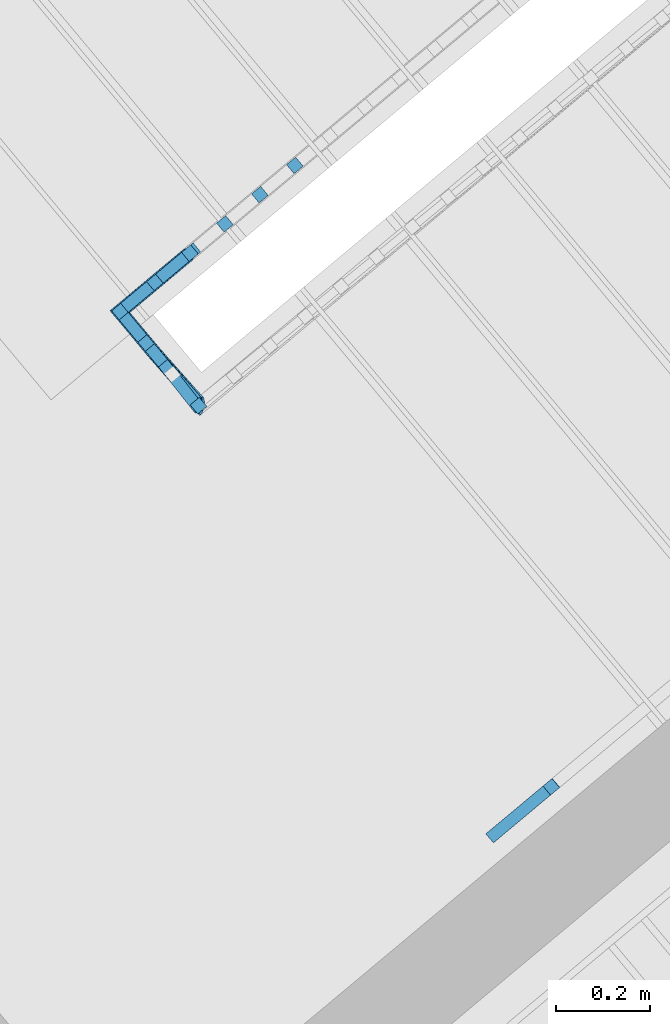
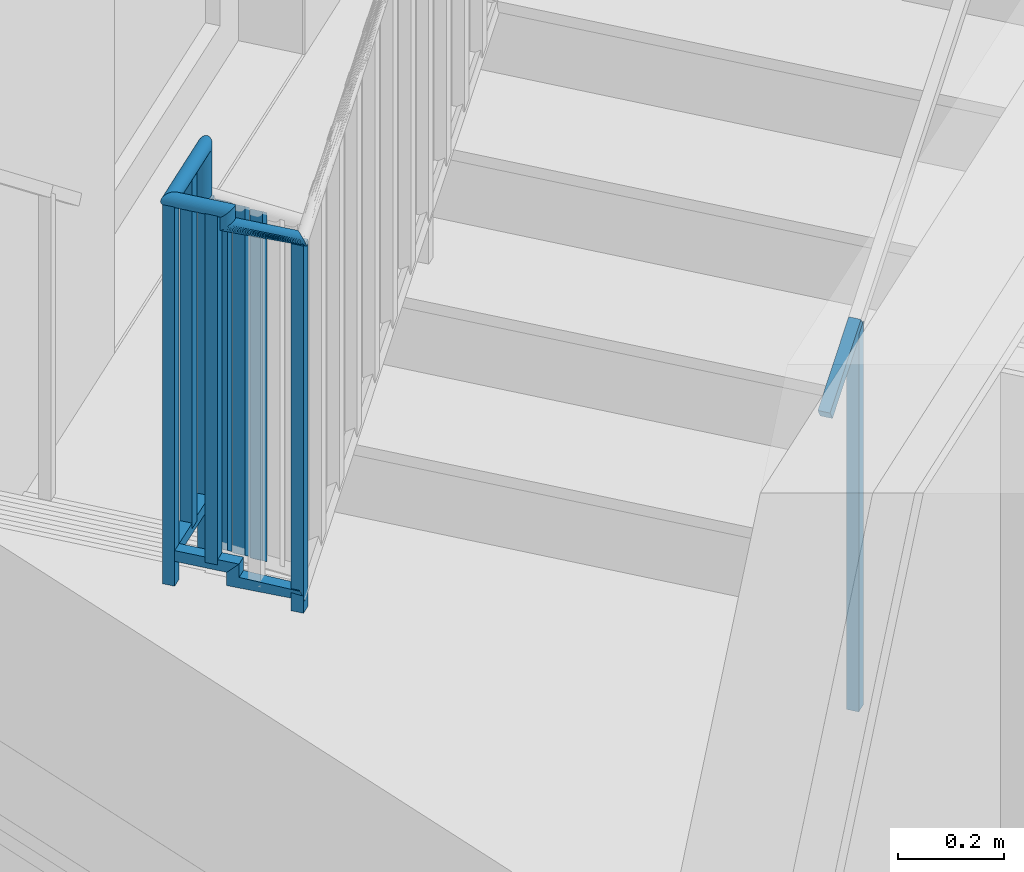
# One storey, part 45 of 61: 16 building element parts, 2 elements without a shape of their own.
"""IFC4 building model written with IfcOpenShell, lengths in metres."""

from ifc_helpers import new_model, entity, si_unit, converted_unit, derived_unit, direction, frame, origin_with_axes, place, context, subcontext, project, spatial, polygons, material, type_object, element, aggregate, save


model = new_model("IFC4")

# Units and contexts
model_context = context("Model", 3, precision=1e-05, world=origin_with_axes(), true_north=direction((0.0, 1.0)))
body_context = subcontext(model_context, "Body", "Model", "MODEL_VIEW")
ifc_project = project(units=[si_unit("LENGTHUNIT", "METRE"), si_unit("AREAUNIT", "SQUARE_METRE"), si_unit("VOLUMEUNIT", "CUBIC_METRE"), converted_unit("PLANEANGLEUNIT", "DEGREE", entity("IfcPlaneAngleMeasure", 0.0174532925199), si_unit("PLANEANGLEUNIT", "RADIAN"), dimensions=[0, 0, 0, 0, 0, 0, 0]), converted_unit("TIMEUNIT", "Year", entity("IfcTimeMeasure", 31556926.0), si_unit("TIMEUNIT", "SECOND"), dimensions=[0, 0, 1, 0, 0, 0, 0]), si_unit("MASSUNIT", "GRAM", prefix="KILO"), si_unit("THERMODYNAMICTEMPERATUREUNIT", "DEGREE_CELSIUS"), si_unit("LUMINOUSINTENSITYUNIT", "LUMEN"), si_unit("ENERGYUNIT", "JOULE", prefix="MEGA"), derived_unit("THERMALCONDUCTANCEUNIT", [(si_unit("POWERUNIT", "WATT"), 1), (si_unit("LENGTHUNIT", "METRE"), -1), (si_unit("THERMODYNAMICTEMPERATUREUNIT", "KELVIN"), -1)]), derived_unit("SPECIFICHEATCAPACITYUNIT", [(si_unit("ENERGYUNIT", "JOULE"), 1), (si_unit("MASSUNIT", "GRAM", prefix="KILO"), -1), (si_unit("THERMODYNAMICTEMPERATUREUNIT", "KELVIN"), -1)]), derived_unit("MASSDENSITYUNIT", [(si_unit("MASSUNIT", "GRAM", prefix="KILO"), 1), (si_unit("VOLUMEUNIT", "CUBIC_METRE"), -1)])], contexts=[model_context])

# Site, building, storey, space
site_placement = place(None, frame((-0.00153261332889, -0.00661245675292, 0.0), z_axis=(0.0, 0.0, 1.0), x_axis=(1.0, 0.0, 0.0)))
site = spatial("IfcSite", under=ifc_project, at=site_placement, Name="Gelände", CompositionType="ELEMENT")
building_placement = place(site_placement, origin_with_axes())
building = spatial("IfcBuilding", under=site, at=building_placement, Name="Gebäude", CompositionType="ELEMENT")
storey_placement = place(building_placement, frame((0.0, 0.0, 5.7), z_axis=(0.0, 0.0, 1.0), x_axis=(1.0, 0.0, 0.0)))
storey = spatial("IfcBuildingStorey", under=building, at=storey_placement, Name="DG1", CompositionType="ELEMENT", Elevation=5.7)
space_placement = place(storey_placement, frame((0.280300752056, 22.6307267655, 0.22), z_axis=(0.0, 0.0, 1.0), x_axis=(-0.641244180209, 0.767336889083, 0.0)))
space = spatial("IfcSpace", under=storey, at=space_placement, CompositionType="ELEMENT", PredefinedType="NOTDEFINED")

# Railing, building element parts
railing_type = type_object("IfcRailingType", Name="Geländerart", PredefinedType="NOTDEFINED")
railing_1_placement = place(space_placement, frame((1.35982515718, -0.251690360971, -0.17), z_axis=(0.0, 0.0, 1.0), x_axis=(-0.641244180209, -0.767336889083, 0.0)))
railing_1 = element("IfcRailing", 1, at=railing_1_placement, inside=space, type_object=railing_type, Name="Geländer - 001", PredefinedType="NOTDEFINED")
ifc_material = material(Name="BEKLEIDUNG")
building_element_part_1_placement = place(railing_1_placement, origin_with_axes())
building_element_part_1 = element("IfcBuildingElementPart", 2, at=building_element_part_1_placement, material=ifc_material, Name="BEKLEIDUNG", PredefinedType="NOTDEFINED", context=body_context, shape_type="Tessellation", body=[
    polygons([(-1.83073465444, -1.44815547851, 1.77058823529), (-1.81470539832, -1.46734044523, 1.77058823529), (-1.81470539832, -1.46734044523, 2.65058823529), (-1.83073465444, -1.44815547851, 2.65058823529), (-1.81154968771, -1.43212622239, 1.77058823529), (-1.79552043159, -1.45131118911, 1.77058823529), (-1.79552043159, -1.45131118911, 2.65058823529), (-1.81154968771, -1.43212622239, 2.65058823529)], [[[1, 2, 3, 4]], [[1, 5, 6, 2]], [[2, 6, 7, 3]], [[4, 3, 7, 8]], [[5, 1, 4, 8]], [[6, 5, 8, 7]]], closed=True),
])
building_element_part_2_placement = place(railing_1_placement, origin_with_axes())
building_element_part_2 = element("IfcBuildingElementPart", 3, at=building_element_part_2_placement, material=ifc_material, Name="BEKLEIDUNG", PredefinedType="NOTDEFINED", context=body_context, shape_type="Tessellation", body=[
    polygons([(-1.65806995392, -1.30389217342, 1.7297425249), (-1.67725492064, -1.31992142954, 1.71753377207), (-1.67725492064, -1.31992142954, 1.82808823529), (-1.83073514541, -1.44815588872, 1.82808823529), (-1.83073514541, -1.44815588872, 1.85308823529), (-1.65806995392, -1.30389217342, 1.85308823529), (-1.6420406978, -1.32307714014, 1.7297425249), (-1.66122566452, -1.33910639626, 1.71753377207), (-1.66122566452, -1.33910639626, 1.82808823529), (-1.79551994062, -1.4513107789, 1.82808823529), (-1.79551994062, -1.4513107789, 1.85308823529), (-1.6420406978, -1.32307714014, 1.85308823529)], [[[1, 2, 3, 4, 5, 6]], [[1, 7, 8, 2]], [[2, 8, 9, 3]], [[3, 9, 10, 4]], [[5, 4, 10, 11]], [[12, 6, 5, 11]], [[7, 1, 6, 12]], [[8, 7, 12, 11, 10, 9]]], closed=True),
])
building_element_part_3_placement = place(railing_1_placement, origin_with_axes())
building_element_part_3 = element("IfcBuildingElementPart", 4, at=building_element_part_3_placement, material=ifc_material, Name="BEKLEIDUNG", PredefinedType="NOTDEFINED", context=body_context, shape_type="Tessellation", body=[
    polygons([(-1.66154123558, -1.34262781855, 2.54631289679), (-1.65968848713, -1.34078287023, 2.5475849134), (-1.65968848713, -1.34078287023, 2.65819295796), (-1.66154123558, -1.34262781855, 2.65558823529), (-1.66368620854, -1.34412301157, 2.54504088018), (-1.66605823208, -1.3452230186, 2.54380751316), (-1.66858523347, -1.34589441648, 2.54265027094), (-1.67119043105, -1.34611680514, 2.54160431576), (-1.67379466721, -1.3458834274, 2.54070142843), (-1.67631881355, -1.34520137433, 2.53996904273), (-1.67868617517, -1.34409136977, 2.53942941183), (-1.68082482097, -1.34258714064, 2.53909893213), (-1.68266976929, -1.34073439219, 2.53898764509), (-1.68416496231, -1.33858941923, 2.53909893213), (-1.68526496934, -1.33621739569, 2.53942941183), (-1.68593636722, -1.3336903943, 2.53996904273), (-1.68615875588, -1.33108519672, 2.54070142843), (-1.68592537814, -1.32848096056, 2.54160431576), (-1.68524332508, -1.32595681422, 2.54265027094), (-1.68413332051, -1.3235894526, 2.54380751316), (-1.68262909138, -1.3214508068, 2.54504088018), (-1.68077634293, -1.31960585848, 2.54631289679), (-1.67863136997, -1.31811066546, 2.5475849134), (-1.67625934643, -1.31701065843, 2.54881828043), (-1.67373234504, -1.31633926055, 2.54997552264), (-1.67112714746, -1.31611687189, 2.55102147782), (-1.6685229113, -1.31635024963, 2.55192436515), (-1.66599876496, -1.31703230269, 2.55265675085), (-1.66363140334, -1.31814230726, 2.55319638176), (-1.66149275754, -1.31964653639, 2.55352686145), (-1.65964780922, -1.32149928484, 2.55363814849), (-1.6581526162, -1.3236442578, 2.55352686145), (-1.65705260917, -1.32601628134, 2.55319638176), (-1.65638121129, -1.32854328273, 2.55265675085), (-1.65615882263, -1.33114848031, 2.55192436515), (-1.65639220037, -1.33375271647, 2.55102147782), (-1.65707425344, -1.33627686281, 2.54997552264), (-1.658184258, -1.33864422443, 2.54881828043), (-1.658184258, -1.33864422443, 2.66071853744), (-1.792319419, -1.45159751, 2.65819295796), (-1.79199842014, -1.45162626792, 2.65558823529), (-1.66368620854, -1.34412301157, 2.65298351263), (-1.66605823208, -1.3452230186, 2.65045793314), (-1.66858523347, -1.34589441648, 2.64808823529), (-1.67119043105, -1.34611680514, 2.64594642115), (-1.67379466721, -1.3458834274, 2.64409756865), (-1.67631881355, -1.34520137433, 2.64259785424), (-1.67868617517, -1.34409136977, 2.64149284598), (-1.68082482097, -1.34258714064, 2.640816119), (-1.68266976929, -1.34073439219, 2.64058823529), (-1.68416496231, -1.33858941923, 2.640816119), (-1.68526496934, -1.33621739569, 2.64149284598), (-1.68593636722, -1.3336903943, 2.64259785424), (-1.68615875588, -1.33108519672, 2.64409756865), (-1.68592537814, -1.32848096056, 2.64594642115), (-1.68524332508, -1.32595681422, 2.64808823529), (-1.68413332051, -1.3235894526, 2.65045793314), (-1.68262909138, -1.3214508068, 2.65298351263), (-1.68077634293, -1.31960585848, 2.65558823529), (-1.67863136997, -1.31811066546, 2.65819295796), (-1.67625934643, -1.31701065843, 2.66071853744), (-1.67373234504, -1.31633926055, 2.66308823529), (-1.67112714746, -1.31611687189, 2.66523004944), (-1.6685229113, -1.31635024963, 2.66707890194), (-1.66599876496, -1.31703230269, 2.66857861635), (-1.66363140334, -1.31814230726, 2.66968362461), (-1.66149275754, -1.31964653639, 2.67036035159), (-1.65964780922, -1.32149928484, 2.67058823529), (-1.6581526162, -1.3236442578, 2.67036035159), (-1.65705260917, -1.32601628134, 2.66968362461), (-1.65638121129, -1.32854328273, 2.66857861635), (-1.65615882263, -1.33114848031, 2.66707890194), (-1.65639220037, -1.33375271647, 2.66523004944), (-1.65707425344, -1.33627686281, 2.66308823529), (-1.79327266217, -1.45151211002, 2.66071853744), (-1.79482918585, -1.45137266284, 2.66308823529), (-1.79694169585, -1.45118340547, 2.66523004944), (-1.79954600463, -1.4509500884, 2.66707890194), (-1.80256298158, -1.45067980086, 2.66857861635), (-1.80590095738, -1.45038075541, 2.66968362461), (-1.80945850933, -1.45006203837, 2.67036035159), (-1.81312754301, -1.44973333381, 2.67058823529), (-1.8167965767, -1.44940462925, 2.67036035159), (-1.82035412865, -1.44908591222, 2.66968362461), (-1.82369210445, -1.44878686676, 2.66857861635), (-1.8267090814, -1.44851657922, 2.66707890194), (-1.82931339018, -1.44828326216, 2.66523004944), (-1.83142590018, -1.44809400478, 2.66308823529), (-1.83298242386, -1.4479545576, 2.66071853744), (-1.83393566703, -1.44786915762, 2.65819295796), (-1.83425666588, -1.4478403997, 2.65558823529), (-1.83393566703, -1.44786915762, 2.65298351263), (-1.83298242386, -1.4479545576, 2.65045793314), (-1.83142590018, -1.44809400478, 2.64808823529), (-1.82931339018, -1.44828326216, 2.64594642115), (-1.8267090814, -1.44851657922, 2.64409756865), (-1.82369210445, -1.44878686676, 2.64259785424), (-1.82035412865, -1.44908591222, 2.64149284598), (-1.8167965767, -1.44940462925, 2.640816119), (-1.81312754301, -1.44973333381, 2.64058823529), (-1.80945850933, -1.45006203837, 2.640816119), (-1.80590095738, -1.45038075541, 2.64149284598), (-1.80256298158, -1.45067980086, 2.64259785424), (-1.79954600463, -1.4509500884, 2.64409756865), (-1.79694169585, -1.45118340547, 2.64594642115), (-1.79482918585, -1.45137266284, 2.64808823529), (-1.79327266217, -1.45151211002, 2.65045793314), (-1.792319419, -1.45159751, 2.65298351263)], [[[1, 2, 3, 4]], [[1, 5, 6, 7, 8, 9, 10, 11, 12, 13, 14, 15, 16, 17, 18, 19, 20, 21, 22, 23, 24, 25, 26, 27, 28, 29, 30, 31, 32, 33, 34, 35, 36, 37, 38, 2]], [[2, 38, 39, 3]], [[4, 3, 40, 41]], [[5, 1, 4, 42]], [[6, 5, 42, 43]], [[7, 6, 43, 44]], [[8, 7, 44, 45]], [[9, 8, 45, 46]], [[10, 9, 46, 47]], [[11, 10, 47, 48]], [[12, 11, 48, 49]], [[13, 12, 49, 50]], [[14, 13, 50, 51]], [[15, 14, 51, 52]], [[16, 15, 52, 53]], [[17, 16, 53, 54]], [[18, 17, 54, 55]], [[19, 18, 55, 56]], [[20, 19, 56, 57]], [[21, 20, 57, 58]], [[22, 21, 58, 59]], [[23, 22, 59, 60]], [[24, 23, 60, 61]], [[25, 24, 61, 62]], [[26, 25, 62, 63]], [[27, 26, 63, 64]], [[28, 27, 64, 65]], [[29, 28, 65, 66]], [[30, 29, 66, 67]], [[31, 30, 67, 68]], [[32, 31, 68, 69]], [[33, 32, 69, 70]], [[34, 33, 70, 71]], [[35, 34, 71, 72]], [[36, 35, 72, 73]], [[37, 36, 73, 74]], [[38, 37, 74, 39]], [[3, 39, 75, 40]], [[41, 40, 75, 76, 77, 78, 79, 80, 81, 82, 83, 84, 85, 86, 87, 88, 89, 90, 91, 92, 93, 94, 95, 96, 97, 98, 99, 100, 101, 102, 103, 104, 105, 106, 107, 108]], [[42, 4, 41, 108]], [[43, 42, 108, 107]], [[44, 43, 107, 106]], [[45, 44, 106, 105]], [[46, 45, 105, 104]], [[47, 46, 104, 103]], [[48, 47, 103, 102]], [[49, 48, 102, 101]], [[50, 49, 101, 100]], [[51, 50, 100, 99]], [[52, 51, 99, 98]], [[53, 52, 98, 97]], [[54, 53, 97, 96]], [[55, 54, 96, 95]], [[56, 55, 95, 94]], [[57, 56, 94, 93]], [[58, 57, 93, 92]], [[59, 58, 92, 91]], [[60, 59, 91, 90]], [[61, 60, 90, 89]], [[62, 61, 89, 88]], [[63, 62, 88, 87]], [[64, 63, 87, 86]], [[65, 64, 86, 85]], [[66, 65, 85, 84]], [[67, 66, 84, 83]], [[68, 67, 83, 82]], [[69, 68, 82, 81]], [[70, 69, 81, 80]], [[71, 70, 80, 79]], [[72, 71, 79, 78]], [[73, 72, 78, 77]], [[74, 73, 77, 76]], [[39, 74, 76, 75]]], closed=True),
])
building_element_part_4_placement = place(railing_1_placement, origin_with_axes())
building_element_part_4 = element("IfcBuildingElementPart", 5, at=building_element_part_4_placement, material=ifc_material, Name="BEKLEIDUNG", PredefinedType="NOTDEFINED", context=body_context, shape_type="Tessellation", body=[
    polygons([(-1.64801867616, -1.66682135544, 1.77058823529), (-1.62883452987, -1.65079111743, 1.77058823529), (-1.62883452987, -1.65079111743, 2.61989887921), (-1.64801867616, -1.66682135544, 2.61989887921), (-1.66404891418, -1.64763720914, 1.77058823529), (-1.64486476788, -1.63160697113, 1.77058823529), (-1.64486476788, -1.63160697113, 2.61989887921), (-1.66404891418, -1.64763720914, 2.61989887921)], [[[1, 2, 3, 4]], [[1, 5, 6, 2]], [[2, 6, 7, 3]], [[4, 3, 7, 8]], [[5, 1, 4, 8]], [[6, 5, 8, 7]]], closed=True),
])
building_element_part_5_placement = place(railing_1_placement, origin_with_axes())
building_element_part_5 = element("IfcBuildingElementPart", 6, at=building_element_part_5_placement, material=ifc_material, Name="BEKLEIDUNG", PredefinedType="NOTDEFINED", context=body_context, shape_type="Tessellation", body=[
    polygons([(-1.73136158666, -1.5670809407, 1.85308823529), (-1.74739182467, -1.5478967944, 1.82808823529), (-1.74739182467, -1.5478967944, 1.79739887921), (-1.73136158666, -1.5670809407, 1.82239887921), (-1.71217744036, -1.55105070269, 1.85308823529), (-1.72820767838, -1.53186655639, 1.82808823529), (-1.72820767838, -1.53186655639, 1.79739887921), (-1.64445279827, -1.66621433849, 1.79779595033), (-1.71217744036, -1.55105070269, 1.82239887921), (-1.63893066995, -1.63383411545, 1.79779595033), (-1.6539527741, -1.66459421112, 1.82200180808), (-1.64843064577, -1.63221398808, 1.82200180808)], [[[1, 2, 3, 4]], [[1, 5, 6, 2]], [[2, 6, 7, 3]], [[4, 3, 8]], [[5, 1, 4, 9]], [[6, 5, 9, 7]], [[3, 7, 10]], [[3, 10, 8]], [[4, 8, 11]], [[9, 4, 11]], [[7, 9, 12]], [[7, 12, 10]], [[11, 8, 10, 12]], [[9, 11, 12]]], closed=True),
])
building_element_part_6_placement = place(railing_1_placement, origin_with_axes())
building_element_part_6 = element("IfcBuildingElementPart", 7, at=building_element_part_6_placement, material=ifc_material, Name="BEKLEIDUNG", PredefinedType="NOTDEFINED", context=body_context, shape_type="Tessellation", body=[
    polygons([(-1.72789228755, -1.52834511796, 2.65558823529), (-1.72639698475, -1.53049001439, 2.65819295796), (-1.72639698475, -1.53049001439, 2.62750360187), (-1.72789228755, -1.52834511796, 2.62489887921), (-1.72973733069, -1.52649246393, 2.65298351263), (-1.73187605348, -1.52498834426, 2.65045793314), (-1.7342434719, -1.52387846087, 2.64808823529), (-1.73676765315, -1.52319653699, 2.64594642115), (-1.73937190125, -1.52296329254, 2.64409756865), (-1.74197708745, -1.52318581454, 2.64259785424), (-1.74450405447, -1.52385734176, 2.64149284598), (-1.74687602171, -1.52495747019, 2.640816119), (-1.74902091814, -1.52645277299, 2.64058823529), (-1.75087357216, -1.52829781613, 2.640816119), (-1.75237769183, -1.53043653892, 2.64149284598), (-1.75348757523, -1.53280395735, 2.64259785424), (-1.7541694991, -1.53532813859, 2.64409756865), (-1.75440274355, -1.53793238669, 2.64594642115), (-1.75418022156, -1.54053757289, 2.64808823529), (-1.75350869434, -1.54306453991, 2.65045793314), (-1.7524085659, -1.54543650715, 2.65298351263), (-1.75091326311, -1.54758140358, 2.65558823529), (-1.74906821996, -1.5494340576, 2.65819295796), (-1.74692949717, -1.55093817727, 2.66071853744), (-1.74456207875, -1.55204806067, 2.66308823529), (-1.7420378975, -1.55272998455, 2.66523004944), (-1.7394336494, -1.55296322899, 2.66707890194), (-1.73682846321, -1.552740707, 2.66857861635), (-1.73430149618, -1.55206917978, 2.66968362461), (-1.73192952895, -1.55096905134, 2.67036035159), (-1.72978463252, -1.54947374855, 2.67058823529), (-1.72793197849, -1.5476287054, 2.67036035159), (-1.72642785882, -1.54548998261, 2.66968362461), (-1.72531797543, -1.54312256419, 2.66857861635), (-1.72463605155, -1.54059838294, 2.66707890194), (-1.7244028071, -1.53799413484, 2.66523004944), (-1.7246253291, -1.53538894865, 2.66308823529), (-1.72529685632, -1.53286198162, 2.66071853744), (-1.72529685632, -1.53286198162, 2.63002918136), (-1.63846858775, -1.63088446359, 2.62789734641), (-1.72973733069, -1.52649246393, 2.62229415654), (-1.73187605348, -1.52498834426, 2.61976857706), (-1.7342434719, -1.52387846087, 2.61739887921), (-1.73676765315, -1.52319653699, 2.61525706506), (-1.73937190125, -1.52296329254, 2.61340821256), (-1.74197708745, -1.52318581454, 2.61190849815), (-1.74450405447, -1.52385734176, 2.6108034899), (-1.74687602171, -1.52495747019, 2.61012676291), (-1.74902091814, -1.52645277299, 2.60989887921), (-1.75087357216, -1.52829781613, 2.61012676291), (-1.75237769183, -1.53043653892, 2.6108034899), (-1.75348757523, -1.53280395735, 2.61190849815), (-1.7541694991, -1.53532813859, 2.61340821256), (-1.75440274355, -1.53793238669, 2.61525706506), (-1.75418022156, -1.54053757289, 2.61739887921), (-1.75350869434, -1.54306453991, 2.61976857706), (-1.7524085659, -1.54543650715, 2.62229415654), (-1.75091326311, -1.54758140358, 2.62489887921), (-1.74906821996, -1.5494340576, 2.62750360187), (-1.74692949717, -1.55093817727, 2.63002918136), (-1.74456207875, -1.55204806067, 2.63239887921), (-1.7420378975, -1.55272998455, 2.63454069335), (-1.7394336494, -1.55296322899, 2.63638954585), (-1.73682846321, -1.552740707, 2.63788926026), (-1.73430149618, -1.55206917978, 2.63899426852), (-1.73192952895, -1.55096905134, 2.6396709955), (-1.72978463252, -1.54947374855, 2.63989887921), (-1.72793197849, -1.5476287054, 2.6396709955), (-1.72642785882, -1.54548998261, 2.63899426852), (-1.72531797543, -1.54312256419, 2.63788926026), (-1.72463605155, -1.54059838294, 2.63638954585), (-1.7244028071, -1.53799413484, 2.63454069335), (-1.7246253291, -1.53538894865, 2.63239887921), (-1.63957778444, -1.631597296, 2.63034269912), (-1.63742845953, -1.63075810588, 2.62537536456), (-1.63648900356, -1.63122206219, 2.62285338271), (-1.63567876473, -1.63226223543, 2.62040803), (-1.63502236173, -1.63384702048, 2.61811360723), (-1.63453973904, -1.63592826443, 2.61603982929), (-1.63424556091, -1.63844272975, 2.61424970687), (-1.63414876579, -1.64131401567, 2.61279763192), (-1.63425229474, -1.64445487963, 2.61172772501), (-1.63455300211, -1.64776988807, 2.61107249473), (-1.63504175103, -1.65115831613, 2.61085184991), (-1.63570369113, -1.65451720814, 2.61107249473), (-1.63651870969, -1.65774450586, 2.61172772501), (-1.63746204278, -1.66074214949, 2.61279763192), (-1.63850502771, -1.66341905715, 2.61424970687), (-1.63961597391, -1.66569389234, 2.61603982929), (-1.64076112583, -1.66749753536, 2.61811360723), (-1.64190568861, -1.66877518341, 2.62040803), (-1.64301488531, -1.66948801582, 2.62285338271), (-1.64405501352, -1.66961437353, 2.62537536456), (-1.64499446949, -1.66915041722, 2.62789734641), (-1.64580470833, -1.66811024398, 2.63034269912), (-1.64646111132, -1.66652545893, 2.63263712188), (-1.64694373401, -1.66444421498, 2.63471089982), (-1.64723791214, -1.66192974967, 2.63650102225), (-1.64733470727, -1.65905846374, 2.6379530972), (-1.64723117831, -1.65591759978, 2.6390230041), (-1.64693047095, -1.65260259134, 2.63967823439), (-1.64644172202, -1.64921416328, 2.63989887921), (-1.64577978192, -1.64585527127, 2.63967823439), (-1.64496476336, -1.64262797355, 2.6390230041), (-1.64402143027, -1.63963032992, 2.6379530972), (-1.64297844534, -1.63695342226, 2.63650102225), (-1.64186749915, -1.63467858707, 2.63471089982), (-1.64072234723, -1.63287494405, 2.63263712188)], [[[1, 2, 3, 4]], [[1, 5, 6, 7, 8, 9, 10, 11, 12, 13, 14, 15, 16, 17, 18, 19, 20, 21, 22, 23, 24, 25, 26, 27, 28, 29, 30, 31, 32, 33, 34, 35, 36, 37, 38, 2]], [[2, 38, 39, 3]], [[4, 3, 40]], [[5, 1, 4, 41]], [[6, 5, 41, 42]], [[7, 6, 42, 43]], [[8, 7, 43, 44]], [[9, 8, 44, 45]], [[10, 9, 45, 46]], [[11, 10, 46, 47]], [[12, 11, 47, 48]], [[13, 12, 48, 49]], [[14, 13, 49, 50]], [[15, 14, 50, 51]], [[16, 15, 51, 52]], [[17, 16, 52, 53]], [[18, 17, 53, 54]], [[19, 18, 54, 55]], [[20, 19, 55, 56]], [[21, 20, 56, 57]], [[22, 21, 57, 58]], [[23, 22, 58, 59]], [[24, 23, 59, 60]], [[25, 24, 60, 61]], [[26, 25, 61, 62]], [[27, 26, 62, 63]], [[28, 27, 63, 64]], [[29, 28, 64, 65]], [[30, 29, 65, 66]], [[31, 30, 66, 67]], [[32, 31, 67, 68]], [[33, 32, 68, 69]], [[34, 33, 69, 70]], [[35, 34, 70, 71]], [[36, 35, 71, 72]], [[37, 36, 72, 73]], [[38, 37, 73, 39]], [[3, 39, 74]], [[3, 74, 40]], [[4, 40, 75]], [[41, 4, 75]], [[42, 41, 76]], [[43, 42, 77]], [[44, 43, 78]], [[45, 44, 79]], [[46, 45, 80]], [[47, 46, 81]], [[48, 47, 82]], [[49, 48, 83]], [[50, 49, 84]], [[51, 50, 85]], [[52, 51, 86]], [[53, 52, 87]], [[54, 53, 88]], [[55, 54, 89]], [[56, 55, 90]], [[57, 56, 91]], [[58, 57, 92]], [[59, 58, 93]], [[60, 59, 94]], [[61, 60, 95]], [[62, 61, 96]], [[63, 62, 97]], [[64, 63, 98]], [[65, 64, 99]], [[66, 65, 100]], [[67, 66, 101]], [[68, 67, 102]], [[69, 68, 103]], [[70, 69, 104]], [[71, 70, 105]], [[72, 71, 106]], [[73, 72, 107]], [[39, 73, 108]], [[39, 108, 74]], [[75, 40, 74, 108, 107, 106, 105, 104, 103, 102, 101, 100, 99, 98, 97, 96, 95, 94, 93, 92, 91, 90, 89, 88, 87, 86, 85, 84, 83, 82, 81, 80, 79, 78, 77, 76]], [[41, 75, 76]], [[42, 76, 77]], [[43, 77, 78]], [[44, 78, 79]], [[45, 79, 80]], [[46, 80, 81]], [[47, 81, 82]], [[48, 82, 83]], [[49, 83, 84]], [[50, 84, 85]], [[51, 85, 86]], [[52, 86, 87]], [[53, 87, 88]], [[54, 88, 89]], [[55, 89, 90]], [[56, 90, 91]], [[57, 91, 92]], [[58, 92, 93]], [[59, 93, 94]], [[60, 94, 95]], [[61, 95, 96]], [[62, 96, 97]], [[63, 97, 98]], [[64, 98, 99]], [[65, 99, 100]], [[66, 100, 101]], [[67, 101, 102]], [[68, 102, 103]], [[69, 103, 104]], [[70, 104, 105]], [[71, 105, 106]], [[72, 106, 107]], [[73, 107, 108]]], closed=True),
])
building_element_part_7_placement = place(railing_1_placement, origin_with_axes())
building_element_part_7 = element("IfcBuildingElementPart", 8, at=building_element_part_7_placement, material=ifc_material, Name="BEKLEIDUNG", PredefinedType="NOTDEFINED", context=body_context, shape_type="Tessellation", body=[
    polygons([(-1.45967860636, -1.1381339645, 1.51232562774), (-1.44364935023, -1.15731893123, 1.51232562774), (-1.44364935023, -1.15731893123, 2.31982562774), (-1.45967860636, -1.1381339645, 2.31982562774), (-1.44049363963, -1.12210470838, 1.49283361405), (-1.42446438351, -1.1412896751, 1.49283361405), (-1.42446438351, -1.1412896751, 2.30033361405), (-1.44049363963, -1.12210470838, 2.30033361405)], [[[1, 2, 3, 4]], [[1, 5, 6, 2]], [[2, 6, 7, 3]], [[4, 3, 7, 8]], [[5, 1, 4, 8]], [[6, 5, 8, 7]]], closed=True),
])
building_element_part_8_placement = place(railing_1_placement, origin_with_axes())
building_element_part_8 = element("IfcBuildingElementPart", 9, at=building_element_part_8_placement, material=ifc_material, Name="BEKLEIDUNG", PredefinedType="NOTDEFINED", context=body_context, shape_type="Tessellation", body=[
    polygons([(-1.53388981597, -1.2001382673, 1.58772455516), (-1.51786055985, -1.21932323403, 1.58772455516), (-1.51786055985, -1.21932323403, 2.39522455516), (-1.53388981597, -1.2001382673, 2.39522455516), (-1.51470484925, -1.18410901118, 1.56823254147), (-1.49867559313, -1.20329397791, 1.56823254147), (-1.49867559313, -1.20329397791, 2.37573254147), (-1.51470484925, -1.18410901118, 2.37573254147)], [[[1, 2, 3, 4]], [[1, 5, 6, 2]], [[2, 6, 7, 3]], [[4, 3, 7, 8]], [[5, 1, 4, 8]], [[6, 5, 8, 7]]], closed=True),
])
building_element_part_9_placement = place(railing_1_placement, origin_with_axes())
building_element_part_9 = element("IfcBuildingElementPart", 10, at=building_element_part_9_placement, material=ifc_material, Name="BEKLEIDUNG", PredefinedType="NOTDEFINED", context=body_context, shape_type="Tessellation", body=[
    polygons([(-1.60810102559, -1.2621425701, 1.66312348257), (-1.59207176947, -1.28132753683, 1.66312348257), (-1.59207176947, -1.28132753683, 2.47062348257), (-1.60810102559, -1.2621425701, 2.47062348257), (-1.58891605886, -1.24611331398, 1.64363146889), (-1.57288680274, -1.26529828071, 1.64363146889), (-1.57288680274, -1.26529828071, 2.45113146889), (-1.58891605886, -1.24611331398, 2.45113146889)], [[[1, 2, 3, 4]], [[1, 5, 6, 2]], [[2, 6, 7, 3]], [[4, 3, 7, 8]], [[5, 1, 4, 8]], [[6, 5, 8, 7]]], closed=True),
])
building_element_part_10_placement = place(railing_1_placement, origin_with_axes())
building_element_part_10 = element("IfcBuildingElementPart", 11, at=building_element_part_10_placement, material=ifc_material, Name="BEKLEIDUNG", PredefinedType="NOTDEFINED", context=body_context, shape_type="Tessellation", body=[
    polygons([(-1.6823122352, -1.32414687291, 1.72363814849), (-1.66628297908, -1.34333183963, 1.72363814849), (-1.66628297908, -1.34333183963, 2.53113814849), (-1.6823122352, -1.32414687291, 2.53113814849), (-1.66312726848, -1.30811761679, 1.72363814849), (-1.64709801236, -1.32730258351, 1.72363814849), (-1.64709801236, -1.32730258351, 2.53113814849), (-1.66312726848, -1.30811761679, 2.53113814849)], [[[1, 2, 3, 4]], [[1, 5, 6, 2]], [[2, 6, 7, 3]], [[4, 3, 7, 8]], [[5, 1, 4, 8]], [[6, 5, 8, 7]]], closed=True),
])
building_element_part_11_placement = place(railing_1_placement, origin_with_axes())
building_element_part_11 = element("IfcBuildingElementPart", 12, at=building_element_part_11_placement, material=ifc_material, Name="BEKLEIDUNG", PredefinedType="NOTDEFINED", context=body_context, shape_type="Tessellation", body=[
    polygons([(-1.75652344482, -1.38615117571, 1.84058823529), (-1.7404941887, -1.40533614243, 1.84058823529), (-1.7404941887, -1.40533614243, 2.64808823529), (-1.75652344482, -1.38615117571, 2.64808823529), (-1.7373384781, -1.37012191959, 1.84058823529), (-1.72130922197, -1.38930688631, 1.84058823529), (-1.72130922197, -1.38930688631, 2.64808823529), (-1.7373384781, -1.37012191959, 2.64808823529)], [[[1, 2, 3, 4]], [[1, 5, 6, 2]], [[2, 6, 7, 3]], [[4, 3, 7, 8]], [[5, 1, 4, 8]], [[6, 5, 8, 7]]], closed=True),
])
building_element_part_12_placement = place(railing_1_placement, origin_with_axes())
building_element_part_12 = element("IfcBuildingElementPart", 13, at=building_element_part_12_placement, material=ifc_material, Name="BEKLEIDUNG", PredefinedType="NOTDEFINED", context=body_context, shape_type="Tessellation", body=[
    polygons([(-1.79199842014, -1.45162626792, 2.65558823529), (-1.792319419, -1.45159751, 2.65819295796), (-1.72639698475, -1.53049001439, 2.65819295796), (-1.72789228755, -1.52834511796, 2.65558823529), (-1.792319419, -1.45159751, 2.65298351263), (-1.79327266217, -1.45151211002, 2.65045793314), (-1.79482918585, -1.45137266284, 2.64808823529), (-1.79694169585, -1.45118340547, 2.64594642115), (-1.79954600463, -1.4509500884, 2.64409756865), (-1.80256298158, -1.45067980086, 2.64259785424), (-1.80590095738, -1.45038075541, 2.64149284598), (-1.80945850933, -1.45006203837, 2.640816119), (-1.81312754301, -1.44973333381, 2.64058823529), (-1.8167965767, -1.44940462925, 2.640816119), (-1.82035412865, -1.44908591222, 2.64149284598), (-1.82369210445, -1.44878686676, 2.64259785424), (-1.8267090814, -1.44851657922, 2.64409756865), (-1.82931339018, -1.44828326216, 2.64594642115), (-1.83142590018, -1.44809400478, 2.64808823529), (-1.83298242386, -1.4479545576, 2.65045793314), (-1.83393566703, -1.44786915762, 2.65298351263), (-1.83425666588, -1.4478403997, 2.65558823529), (-1.83393566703, -1.44786915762, 2.65819295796), (-1.83298242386, -1.4479545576, 2.66071853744), (-1.83142590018, -1.44809400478, 2.66308823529), (-1.82931339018, -1.44828326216, 2.66523004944), (-1.8267090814, -1.44851657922, 2.66707890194), (-1.82369210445, -1.44878686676, 2.66857861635), (-1.82035412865, -1.44908591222, 2.66968362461), (-1.8167965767, -1.44940462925, 2.67036035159), (-1.81312754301, -1.44973333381, 2.67058823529), (-1.80945850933, -1.45006203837, 2.67036035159), (-1.80590095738, -1.45038075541, 2.66968362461), (-1.80256298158, -1.45067980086, 2.66857861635), (-1.79954600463, -1.4509500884, 2.66707890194), (-1.79694169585, -1.45118340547, 2.66523004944), (-1.79482918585, -1.45137266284, 2.66308823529), (-1.79327266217, -1.45151211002, 2.66071853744), (-1.72529685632, -1.53286198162, 2.66071853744), (-1.7246253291, -1.53538894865, 2.66308823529), (-1.7244028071, -1.53799413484, 2.66523004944), (-1.72463605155, -1.54059838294, 2.66707890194), (-1.72531797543, -1.54312256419, 2.66857861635), (-1.72642785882, -1.54548998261, 2.66968362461), (-1.72793197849, -1.5476287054, 2.67036035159), (-1.72978463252, -1.54947374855, 2.67058823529), (-1.73192952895, -1.55096905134, 2.67036035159), (-1.73430149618, -1.55206917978, 2.66968362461), (-1.73682846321, -1.552740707, 2.66857861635), (-1.7394336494, -1.55296322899, 2.66707890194), (-1.7420378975, -1.55272998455, 2.66523004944), (-1.74456207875, -1.55204806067, 2.66308823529), (-1.74692949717, -1.55093817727, 2.66071853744), (-1.74906821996, -1.5494340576, 2.65819295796), (-1.75091326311, -1.54758140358, 2.65558823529), (-1.7524085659, -1.54543650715, 2.65298351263), (-1.75350869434, -1.54306453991, 2.65045793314), (-1.75418022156, -1.54053757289, 2.64808823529), (-1.75440274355, -1.53793238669, 2.64594642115), (-1.7541694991, -1.53532813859, 2.64409756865), (-1.75348757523, -1.53280395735, 2.64259785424), (-1.75237769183, -1.53043653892, 2.64149284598), (-1.75087357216, -1.52829781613, 2.640816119), (-1.74902091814, -1.52645277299, 2.64058823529), (-1.74687602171, -1.52495747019, 2.640816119), (-1.74450405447, -1.52385734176, 2.64149284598), (-1.74197708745, -1.52318581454, 2.64259785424), (-1.73937190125, -1.52296329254, 2.64409756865), (-1.73676765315, -1.52319653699, 2.64594642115), (-1.7342434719, -1.52387846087, 2.64808823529), (-1.73187605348, -1.52498834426, 2.65045793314), (-1.72973733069, -1.52649246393, 2.65298351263)], [[[1, 2, 3, 4]], [[1, 5, 6, 7, 8, 9, 10, 11, 12, 13, 14, 15, 16, 17, 18, 19, 20, 21, 22, 23, 24, 25, 26, 27, 28, 29, 30, 31, 32, 33, 34, 35, 36, 37, 38, 2]], [[2, 38, 39, 3]], [[4, 3, 39, 40, 41, 42, 43, 44, 45, 46, 47, 48, 49, 50, 51, 52, 53, 54, 55, 56, 57, 58, 59, 60, 61, 62, 63, 64, 65, 66, 67, 68, 69, 70, 71, 72]], [[5, 1, 4, 72]], [[6, 5, 72, 71]], [[7, 6, 71, 70]], [[8, 7, 70, 69]], [[9, 8, 69, 68]], [[10, 9, 68, 67]], [[11, 10, 67, 66]], [[12, 11, 66, 65]], [[13, 12, 65, 64]], [[14, 13, 64, 63]], [[15, 14, 63, 62]], [[16, 15, 62, 61]], [[17, 16, 61, 60]], [[18, 17, 60, 59]], [[19, 18, 59, 58]], [[20, 19, 58, 57]], [[21, 20, 57, 56]], [[22, 21, 56, 55]], [[23, 22, 55, 54]], [[24, 23, 54, 53]], [[25, 24, 53, 52]], [[26, 25, 52, 51]], [[27, 26, 51, 50]], [[28, 27, 50, 49]], [[29, 28, 49, 48]], [[30, 29, 48, 47]], [[31, 30, 47, 46]], [[32, 31, 46, 45]], [[33, 32, 45, 44]], [[34, 33, 44, 43]], [[35, 34, 43, 42]], [[36, 35, 42, 41]], [[37, 36, 41, 40]], [[38, 37, 40, 39]]], closed=True),
])
building_element_part_13_placement = place(railing_1_placement, origin_with_axes())
building_element_part_13 = element("IfcBuildingElementPart", 14, at=building_element_part_13_placement, material=ifc_material, Name="BEKLEIDUNG", PredefinedType="NOTDEFINED", context=body_context, shape_type="Tessellation", body=[
    polygons([(-1.83073514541, -1.44815588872, 1.85308823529), (-1.83073514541, -1.44815588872, 1.82808823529), (-1.74739182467, -1.5478967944, 1.82808823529), (-1.73136158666, -1.5670809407, 1.85308823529), (-1.79551994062, -1.4513107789, 1.85308823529), (-1.79551994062, -1.4513107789, 1.82808823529), (-1.72820767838, -1.53186655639, 1.82808823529), (-1.71217744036, -1.55105070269, 1.85308823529)], [[[1, 2, 3, 4]], [[1, 5, 6, 2]], [[2, 6, 7, 3]], [[4, 3, 7, 8]], [[5, 1, 4, 8]], [[6, 5, 8, 7]]], closed=True),
])
building_element_part_14_placement = place(railing_1_placement, origin_with_axes())
building_element_part_14 = element("IfcBuildingElementPart", 15, at=building_element_part_14_placement, material=ifc_material, Name="BEKLEIDUNG", PredefinedType="NOTDEFINED", context=body_context, shape_type="Tessellation", body=[
    polygons([(-1.75914255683, -1.53383413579, 1.84058823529), (-1.73995841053, -1.51780389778, 1.84058823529), (-1.73995841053, -1.51780389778, 2.64808823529), (-1.75914255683, -1.53383413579, 2.64808823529), (-1.77517279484, -1.51464998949, 1.84058823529), (-1.75598864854, -1.49861975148, 1.84058823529), (-1.75598864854, -1.49861975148, 2.64808823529), (-1.77517279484, -1.51464998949, 2.64808823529)], [[[1, 2, 3, 4]], [[1, 5, 6, 2]], [[2, 6, 7, 3]], [[4, 3, 7, 8]], [[5, 1, 4, 8]], [[6, 5, 8, 7]]], closed=True),
])
aggregate(railing_1, [building_element_part_1, building_element_part_2, building_element_part_3, building_element_part_4, building_element_part_5, building_element_part_6, building_element_part_7, building_element_part_8, building_element_part_9, building_element_part_10, building_element_part_11, building_element_part_12, building_element_part_13, building_element_part_14])

railing_2_placement = place(space_placement, frame((9.09464852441e-05, 2.01352288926, 1.60058823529), z_axis=(0.0, 0.0, 1.0), x_axis=(-0.641244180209, -0.767336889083, 0.0)))
railing_2 = element("IfcRailing", 16, at=railing_2_placement, inside=space, type_object=railing_type, Name="Geländer - 002", PredefinedType="NOTDEFINED")
building_element_part_15_placement = place(railing_2_placement, origin_with_axes())
building_element_part_15 = element("IfcBuildingElementPart", 17, at=building_element_part_15_placement, material=ifc_material, Name="BEKLEIDUNG", PredefinedType="NOTDEFINED", context=body_context, shape_type="Tessellation", body=[
    polygons([(-0.0144532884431, 0.0367913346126, 0.0), (-0.0304835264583, 0.0559754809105, 0.0), (-0.0304835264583, 0.0559754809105, 0.887694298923), (-0.0144532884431, 0.0367913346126, 0.887694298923), (-0.033637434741, 0.0207610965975, 0.0), (-0.0496676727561, 0.0399452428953, 0.0), (-0.0496676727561, 0.0399452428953, 0.872305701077), (-0.033637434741, 0.0207610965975, 0.872305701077)], [[[1, 2, 3, 4]], [[1, 5, 6, 2]], [[2, 6, 7, 3]], [[4, 3, 7, 8]], [[5, 1, 4, 8]], [[6, 5, 8, 7]]], closed=True),
])
building_element_part_16_placement = place(railing_2_placement, origin_with_axes())
building_element_part_16 = element("IfcBuildingElementPart", 18, at=building_element_part_16_placement, material=ifc_material, Name="BEKLEIDUNG", PredefinedType="NOTDEFINED", context=body_context, shape_type="Tessellation", body=[
    polygons([(-0.0400755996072, 0.0479603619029, 0.9), (-0.0300193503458, 0.0563633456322, 0.878710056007), (-0.160716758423, -0.0528471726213, 0.773870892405), (-0.170773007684, -0.0612501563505, 0.795160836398), (-0.024045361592, 0.0287762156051, 0.9), (-0.0139891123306, 0.0371791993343, 0.878710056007), (-0.144686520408, -0.0720313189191, 0.773870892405), (-0.154742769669, -0.0804343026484, 0.795160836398)], [[[1, 2, 3, 4]], [[1, 5, 6, 2]], [[2, 6, 7, 3]], [[4, 3, 7, 8]], [[5, 1, 4, 8]], [[6, 5, 8, 7]]], closed=True),
])
aggregate(railing_2, [building_element_part_15, building_element_part_16])

save(model, "model.ifc")
